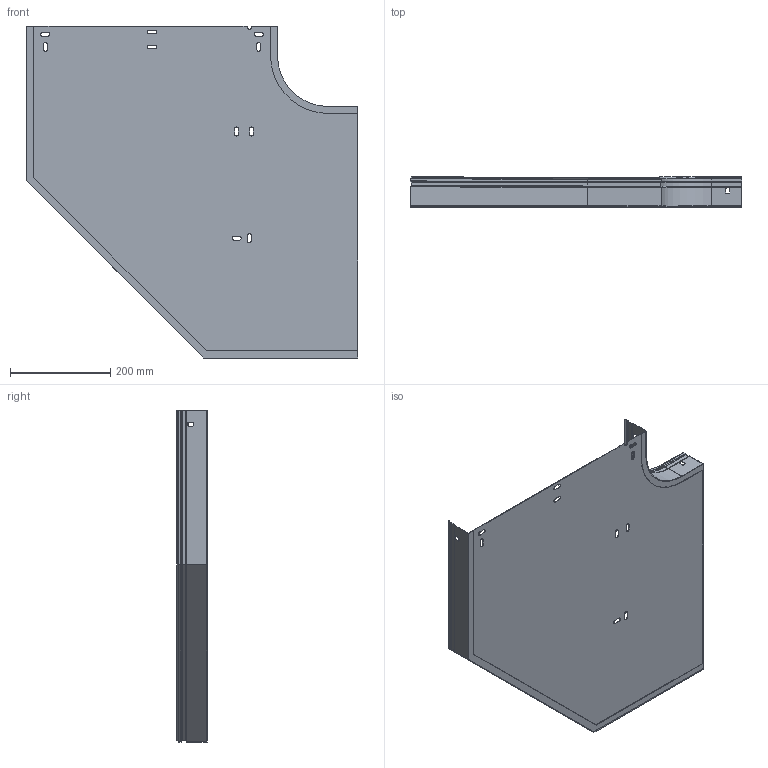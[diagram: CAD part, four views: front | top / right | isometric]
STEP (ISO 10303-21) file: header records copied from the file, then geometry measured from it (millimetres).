
FILE_DESCRIPTION (( 'STEP AP203' ), '1' );
FILE_NAME ('ERE_CPERC 500x60.step', '2023-07-27T18:48:19', ( '' ), ( '' ), 'SwSTEP 2.0', 'SolidWorks 2022', '' );
FILE_SCHEMA (( 'CONFIG_CONTROL_DESIGN' ));
Length unit declared in the file: millimetre
Products named in the file (4): ERE_LATERAL INT CP_60; ERE_CPERC 500x60; ERE_BASE CP_500; ERE_LATERAL EXT CP_500 x 60
Assembly tree (3 placements, depth 2):
  ERE_CPERC 500x60
    ERE_BASE CP_500
    ERE_LATERAL INT CP_60
    ERE_LATERAL EXT CP_500 x 60
Bounding box: 660.85 x 60 x 660.85 mm (x, y, z)
Volume: 453381.7 mm3; surface area: 912833.8 mm2
Topology: 3 solids, 3 shells, 171 faces, 447 edges, 282 vertices
Faces by surface type: plane 120, cylinder 44, cone 7
Entity records: 5637 total; most frequent: CARTESIAN_POINT 906, ORIENTED_EDGE 894, DIRECTION 891, EDGE_CURVE 447, VECTOR 357, LINE 357, VERTEX_POINT 282, AXIS2_PLACEMENT_3D 267
